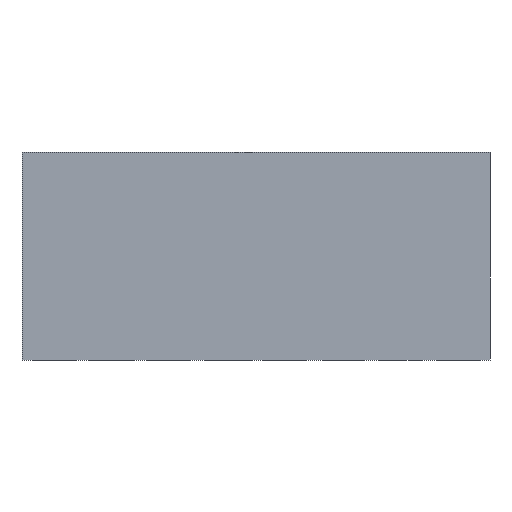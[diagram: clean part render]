
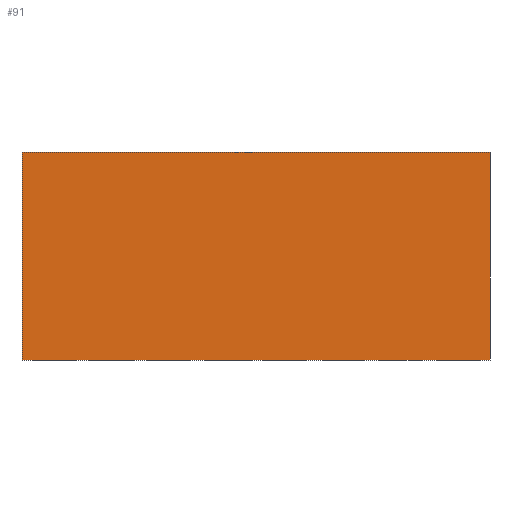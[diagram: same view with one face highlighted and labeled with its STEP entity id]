
A CAD part, front view. The second image highlights one B-rep face of the part: STEP entity #91.
In plain terms, the highlighted planar face has unit normal (0, -1, 0).
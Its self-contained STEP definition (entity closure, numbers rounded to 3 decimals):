
#52=CARTESIAN_POINT('Axis2P3D Location',(0.,0.,7.2)) ;
#57=CARTESIAN_POINT('Line Origine',(0.,0.,7.2)) ;
#61=CARTESIAN_POINT('Vertex',(-8.1,0.,7.2)) ;
#63=CARTESIAN_POINT('Vertex',(8.1,0.,7.2)) ;
#66=CARTESIAN_POINT('Line Origine',(-8.1,0.,3.6)) ;
#70=CARTESIAN_POINT('Vertex',(-8.1,0.,0.)) ;
#73=CARTESIAN_POINT('Line Origine',(0.,0.,0.)) ;
#77=CARTESIAN_POINT('Vertex',(8.1,0.,0.)) ;
#80=CARTESIAN_POINT('Line Origine',(8.1,0.,3.6)) ;
#53=DIRECTION('Axis2P3D Direction',(0.,-1.,0.)) ;
#54=DIRECTION('Axis2P3D XDirection',(0.,0.,-1.)) ;
#58=DIRECTION('Vector Direction',(1.,0.,0.)) ;
#67=DIRECTION('Vector Direction',(0.,0.,-1.)) ;
#74=DIRECTION('Vector Direction',(1.,0.,0.)) ;
#81=DIRECTION('Vector Direction',(0.,0.,-1.)) ;
#55=AXIS2_PLACEMENT_3D('Plane Axis2P3D',#52,#53,#54) ;
#86=ORIENTED_EDGE('',*,*,#65,.F.) ;
#87=ORIENTED_EDGE('',*,*,#72,.T.) ;
#88=ORIENTED_EDGE('',*,*,#79,.T.) ;
#89=ORIENTED_EDGE('',*,*,#84,.F.) ;
#59=VECTOR('Line Direction',#58,1.) ;
#68=VECTOR('Line Direction',#67,1.) ;
#75=VECTOR('Line Direction',#74,1.) ;
#82=VECTOR('Line Direction',#81,1.) ;
#91=ADVANCED_FACE('\X2\96F64EF651E04F554F53\X0\',(#90),#56,.T.) ;
#65=EDGE_CURVE('',#62,#64,#60,.T.) ;
#72=EDGE_CURVE('',#62,#71,#69,.T.) ;
#79=EDGE_CURVE('',#71,#78,#76,.T.) ;
#84=EDGE_CURVE('',#64,#78,#83,.T.) ;
#85=EDGE_LOOP('',(#86,#87,#88,#89)) ;
#90=FACE_OUTER_BOUND('',#85,.T.) ;
#60=LINE('Line',#57,#59) ;
#69=LINE('Line',#66,#68) ;
#76=LINE('Line',#73,#75) ;
#83=LINE('Line',#80,#82) ;
#56=PLANE('Plane',#55) ;
#62=VERTEX_POINT('',#61) ;
#64=VERTEX_POINT('',#63) ;
#71=VERTEX_POINT('',#70) ;
#78=VERTEX_POINT('',#77) ;
